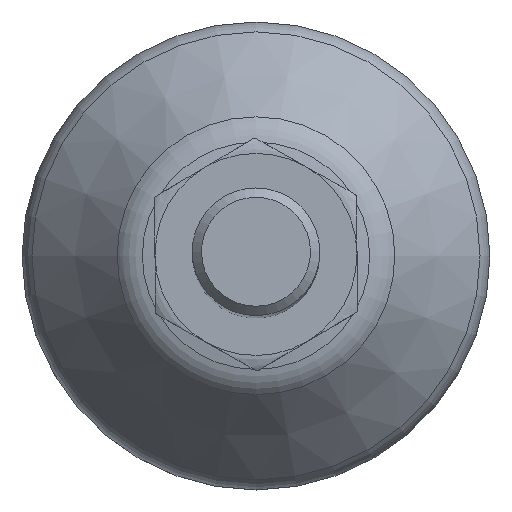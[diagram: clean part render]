
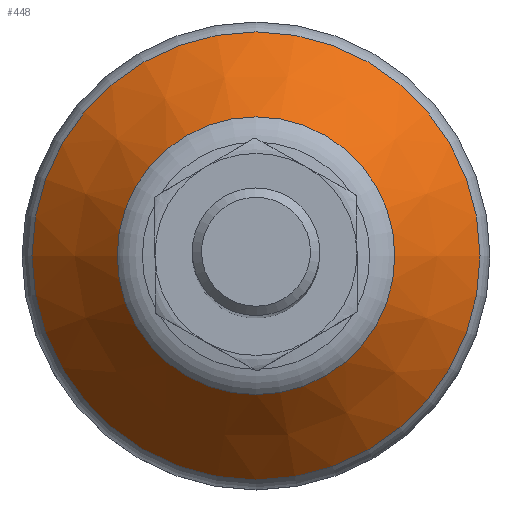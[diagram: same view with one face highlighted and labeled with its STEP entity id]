
A CAD part, top view. The second image highlights one B-rep face of the part: STEP entity #448.
In plain terms, the highlighted conical face has half-angle 40 degrees and reference radius 13.057 mm.
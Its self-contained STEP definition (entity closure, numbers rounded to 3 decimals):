
#448=ADVANCED_FACE('',(#767,#768),#769,.T.);
#767=FACE_BOUND('',#1055,.T.);
#768=FACE_OUTER_BOUND('',#1056,.T.);
#769=CONICAL_SURFACE('',#1057,13.057,0.698);
#1055=EDGE_LOOP('',(#1678));
#1056=EDGE_LOOP('',(#1679));
#1057=AXIS2_PLACEMENT_3D('',#1680,#1681,#1682);
#1678=ORIENTED_EDGE('',*,*,#1891,.T.);
#1679=ORIENTED_EDGE('',*,*,#1910,.F.);
#1680=CARTESIAN_POINT('',(0.0,0.0,16.114));
#1681=DIRECTION('',(-0.0,0.0,-1.0));
#1682=DIRECTION('',(-1.0,0.0,0.0));
#1891=EDGE_CURVE('',#2211,#2211,#2212,.T.);
#1910=EDGE_CURVE('',#2240,#2240,#2241,.T.);
#2211=VERTEX_POINT('',#3144);
#2212=CIRCLE('',#3145,13.057);
#2240=VERTEX_POINT('',#3173);
#2241=CIRCLE('',#3174,21.064);
#3144=CARTESIAN_POINT('',(-13.057,0.0,16.114));
#3145=AXIS2_PLACEMENT_3D('',#3398,#3399,#3400);
#3173=CARTESIAN_POINT('',(-21.064,0.0,6.571));
#3174=AXIS2_PLACEMENT_3D('',#3428,#3429,#3430);
#3398=CARTESIAN_POINT('',(0.0,0.0,16.114));
#3399=DIRECTION('',(0.0,0.0,-1.0));
#3400=DIRECTION('',(-1.0,0.0,0.0));
#3428=CARTESIAN_POINT('',(0.0,0.0,6.571));
#3429=DIRECTION('',(0.0,0.0,-1.0));
#3430=DIRECTION('',(-1.0,0.0,0.0));
